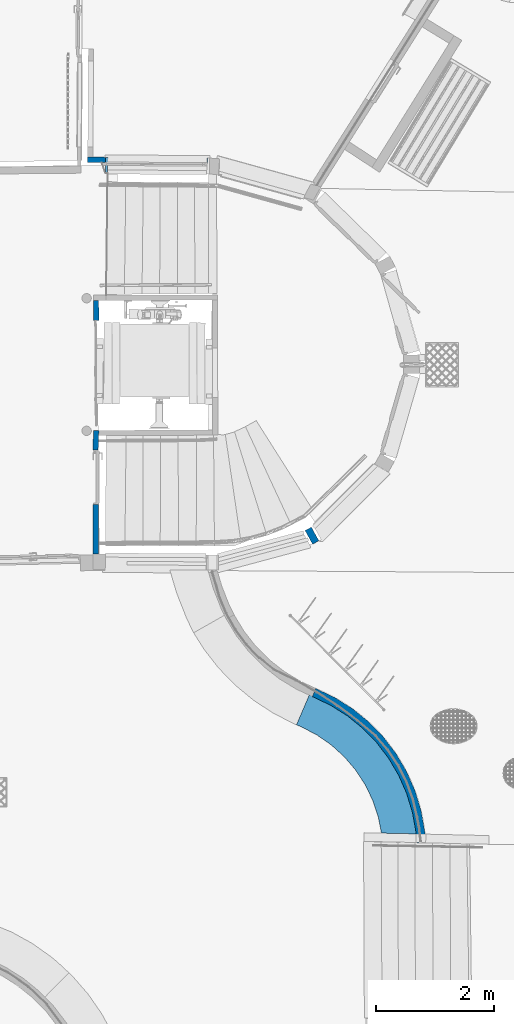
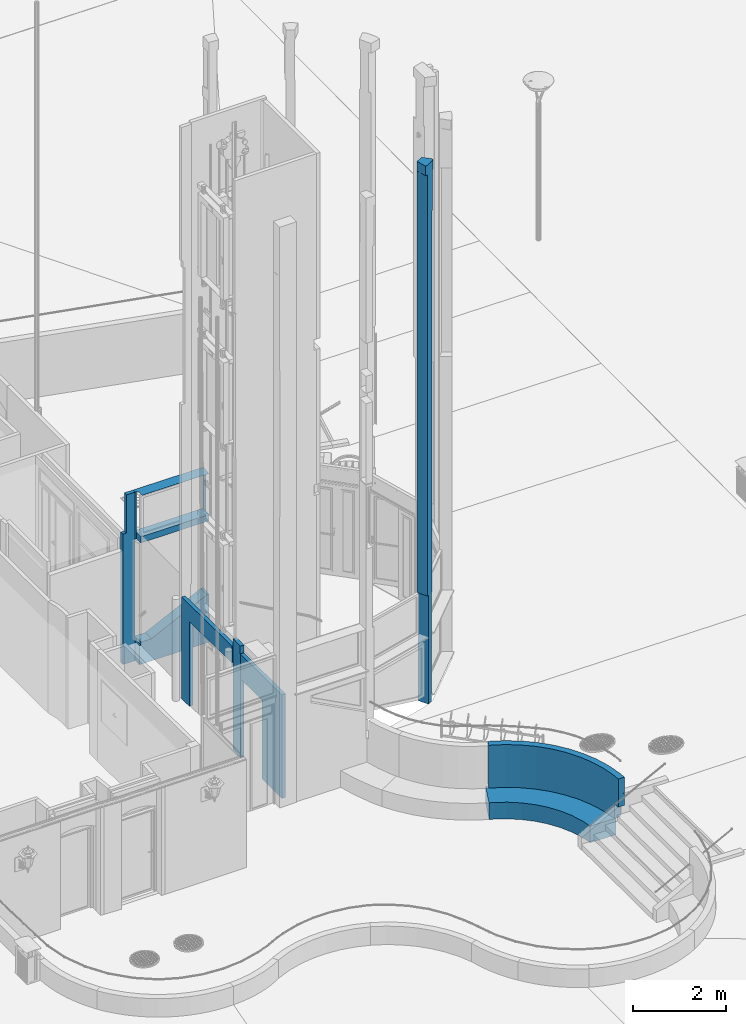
# One storey, part 21 of 133: 8 walls, 4 openings.
"""IFC2X3 building model written with IfcOpenShell, lengths in centimetres."""

import ifcopenshell
import ifcopenshell.guid

model = None  # the IFC model being written
_history = None  # IfcOwnerHistory: only IFC2X3 demands one
_inside = {}  # id of a spatial element -> (the spatial element, [elements in it])
_under = {}  # id of a project, library or spatial element -> (it, [spatial elements below it])
_declared = {}  # id of a project -> (the project, [libraries it declares])
_typed = {}  # id of a type object -> (the type object, [elements of that type])
_made_of = {}  # id of a material, layer set ... -> (it, [elements and type objects made of it])


def new_model(schema):
    """Start an empty IFC model of exactly this schema.

    Asked for "IFC4X3", IfcOpenShell would pick the latest addendum, in which some entities
    have other attributes; the version numbers below select the first issue.
    IFC2X3 requires an IfcOwnerHistory on every rooted entity: one is made here for all.
    """
    global model, _history
    if schema == "IFC4X3":
        model = ifcopenshell.file(schema_version=(4, 3, 0, 0))
    else:
        model = ifcopenshell.file(schema=schema)
    _inside.clear()
    _under.clear()
    _declared.clear()
    _typed.clear()
    _made_of.clear()
    _history = None
    if model.schema == "IFC2X3":
        org = make("IfcOrganization", Name="unknown")
        user = make(
            "IfcPersonAndOrganization",
            ThePerson=make("IfcPerson", FamilyName="unknown"),
            TheOrganization=org,
        )
        app = make(
            "IfcApplication",
            ApplicationDeveloper=org,
            Version="unknown",
            ApplicationFullName="unknown",
            ApplicationIdentifier="unknown",
        )
        _history = make(
            "IfcOwnerHistory",
            OwningUser=user,
            OwningApplication=app,
            ChangeAction="ADDED",
            CreationDate=0,
        )
    return model


def make(cls, **values):
    """One entity of the class cls with the attributes given. An attribute that is None is left unset."""
    return model.create_entity(
        cls, **{name: value for name, value in values.items() if value is not None}
    )


def entity(cls, *values):
    """Any entity or typed value of the class cls, its attributes in the order of the schema. None: left unset."""
    e = model.create_entity(cls)
    for i, value in enumerate(values):
        if value is not None:
            e[i] = value
    return e


def rooted(cls, **values):
    """An entity with a GlobalId (a new one), such as an element, a storey or a relation."""
    return make(cls, GlobalId=ifcopenshell.guid.new(), OwnerHistory=_history, **values)


def si_unit(unit_type, name, prefix=None):
    """IfcSIUnit, for example si_unit("LENGTHUNIT", "METRE", prefix="MILLI")."""
    return make("IfcSIUnit", UnitType=unit_type, Prefix=prefix, Name=name)


def converted_unit(unit_type, name, factor, base, dimensions=None, offset=None):
    """IfcConversionBasedUnit, such as the inch: factor (a typed value) times the base unit."""
    return make(
        "IfcConversionBasedUnit"
        if offset is None
        else "IfcConversionBasedUnitWithOffset",
        ConversionOffset=offset,
        Dimensions=None
        if dimensions is None
        else entity("IfcDimensionalExponents", *dimensions),
        UnitType=unit_type,
        Name=name,
        ConversionFactor=make(
            "IfcMeasureWithUnit", ValueComponent=factor, UnitComponent=base
        ),
    )


def assignment(units):
    """IfcUnitAssignment: the units of a project."""
    return None if units is None else make("IfcUnitAssignment", Units=units)


def point(xyz):
    """IfcCartesianPoint."""
    return None if xyz is None else make("IfcCartesianPoint", Coordinates=xyz)


def direction(xyz):
    """IfcDirection."""
    return None if xyz is None else make("IfcDirection", DirectionRatios=xyz)


def frame(location, z_axis=None, x_axis=None):
    """IfcAxis2Placement3D, a coordinate frame: its origin and axes. An axis left out is left unset."""
    return make(
        "IfcAxis2Placement3D",
        Location=point(location),
        Axis=direction(z_axis),
        RefDirection=direction(x_axis),
    )


def frame_2d(location, x_axis=None):
    """IfcAxis2Placement2D, a coordinate frame in the plane: its origin and x axis."""
    return make(
        "IfcAxis2Placement2D", Location=point(location), RefDirection=direction(x_axis)
    )


def origin():
    """The frame at (0, 0, 0) with its axes left unset."""
    return frame((0.0, 0.0, 0.0))


def origin_with_axes():
    """The frame at (0, 0, 0) with the z axis (0, 0, 1) and the x axis (1, 0, 0) written out."""
    return frame((0.0, 0.0, 0.0), z_axis=(0.0, 0.0, 1.0), x_axis=(1.0, 0.0, 0.0))


def origin_2d_with_axis():
    """The frame at (0, 0) in the plane with the x axis (1, 0) written out."""
    return frame_2d((0.0, 0.0), x_axis=(1.0, 0.0))


def place(relative_to, where):
    """IfcLocalPlacement: puts the frame where relative to a parent placement (None: the world)."""
    return make(
        "IfcLocalPlacement", PlacementRelTo=relative_to, RelativePlacement=where
    )


def context(
    kind, dimensions, precision=None, world=None, true_north=None, identifier=None
):
    """IfcGeometricRepresentationContext, for example the 3D "Model" context."""
    return make(
        "IfcGeometricRepresentationContext",
        ContextIdentifier=identifier,
        ContextType=kind,
        CoordinateSpaceDimension=dimensions,
        Precision=precision,
        WorldCoordinateSystem=world,
        TrueNorth=true_north,
    )


def subcontext(parent, identifier, kind, view, scale=None):
    """IfcGeometricRepresentationSubContext, for example "Body" below "Model"."""
    return make(
        "IfcGeometricRepresentationSubContext",
        ContextIdentifier=identifier,
        ContextType=kind,
        ParentContext=parent,
        TargetScale=scale,
        TargetView=view,
    )


def project(units=None, contexts=None):
    """IfcProject with its units and contexts."""
    return rooted(
        "IfcProject",
        Name="project",
        RepresentationContexts=contexts,
        UnitsInContext=assignment(units),
    )


def spatial(cls, under=None, at=None, **own):
    """A site, building, storey or space (cls), placed at a placement, below another one or the project."""
    s = rooted(cls, ObjectPlacement=at, **own)
    if under is not None:
        _under.setdefault(under.id(), (under, []))[1].append(s)
    return s


def polyline(points):
    """IfcPolyline through the points."""
    return make("IfcPolyline", Points=[point(p) for p in points])


def profile(cls, at=None, kind="AREA", **sizes):
    """A parametric profile (cls). Its sizes go by their IFC names, for example OverallWidth=200.0."""
    return make(cls, ProfileType=kind, Position=at, **sizes)


def rectangle(**sizes):
    """IfcRectangleProfileDef."""
    return profile("IfcRectangleProfileDef", **sizes)


def outline(outer, holes=None, kind="AREA"):
    """IfcArbitraryClosedProfileDef: a profile drawn as a closed curve; with holes, ...WithVoids."""
    if holes is None:
        return make("IfcArbitraryClosedProfileDef", ProfileType=kind, OuterCurve=outer)
    return make(
        "IfcArbitraryProfileDefWithVoids",
        ProfileType=kind,
        OuterCurve=outer,
        InnerCurves=holes,
    )


def extrude(swept, where, along, depth):
    """IfcExtrudedAreaSolid: the profile swept, set in the frame where, extruded along a direction by depth."""
    return make(
        "IfcExtrudedAreaSolid",
        SweptArea=swept,
        Position=where,
        ExtrudedDirection=direction(along),
        Depth=depth,
    )


def clip(a, b, op="DIFFERENCE"):
    """IfcBooleanClippingResult: the solid a cut by the half space b."""
    return make(
        "IfcBooleanClippingResult", Operator=op, FirstOperand=a, SecondOperand=b
    )


def bounded_halfspace(plane, agree, where, boundary):
    """IfcPolygonalBoundedHalfSpace: a half space limited to a polygon's prism."""
    return make(
        "IfcPolygonalBoundedHalfSpace",
        BaseSurface=make("IfcPlane", Position=plane),
        AgreementFlag=agree,
        Position=where,
        PolygonalBoundary=boundary,
    )


def shape(context_of_items, identifier, shape_type, items):
    """IfcShapeRepresentation: the items that make up one representation, for example the "Body"."""
    return make(
        "IfcShapeRepresentation",
        ContextOfItems=context_of_items,
        RepresentationIdentifier=identifier,
        RepresentationType=shape_type,
        Items=items,
    )


def material(Name=None, Category=None):
    """IfcMaterial."""
    return make("IfcMaterial", Name=Name, Category=Category)


def layer(
    of_material, thickness, ventilated=None, Name=None, Category=None, Priority=None
):
    """IfcMaterialLayer: one layer of a wall or slab, of a material (None: an air gap)."""
    return make(
        "IfcMaterialLayer",
        Material=of_material,
        LayerThickness=thickness,
        IsVentilated=ventilated,
        Name=Name,
        Category=Category,
        Priority=Priority,
    )


def layer_set(layers, Name=None):
    """IfcMaterialLayerSet."""
    return make("IfcMaterialLayerSet", MaterialLayers=layers, LayerSetName=Name)


def layer_usage(for_layer_set, set_direction, sense, offset, extent=None):
    """IfcMaterialLayerSetUsage: how a layer set lies in its element."""
    return make(
        "IfcMaterialLayerSetUsage",
        ForLayerSet=for_layer_set,
        LayerSetDirection=set_direction,
        DirectionSense=sense,
        OffsetFromReferenceLine=offset,
        ReferenceExtent=extent,
    )


def made_of(thing, what):
    """Note that an element or type object is made of a material, layer set ...; save() writes the relation."""
    if what is not None:
        _made_of.setdefault(what.id(), (what, []))[1].append(thing)
    return thing


def type_object(cls, material=None, **own):
    """A type object (cls), such as IfcWallType, which elements share."""
    return made_of(rooted(cls, **own), material)


def element(
    cls,
    number,
    at=None,
    inside=None,
    cuts=None,
    type_object=None,
    material=None,
    context=None,
    identifier="Body",
    shape_type=None,
    held_by="IfcProductDefinitionShape",
    body=None,
    shapes=None,
    **own,
):
    """One element of the class cls, such as IfcWall. Its Tag is "e" and its number.

    at: its placement. inside: the storey or other place that contains it. cuts: it is an
    opening in that element (IfcRelVoidsElement). A single representation is given by context,
    identifier, shape_type and body (its items); several are given by shapes. held_by: the class
    of the entity that holds the representations. save() writes the other relations.
    """
    e = rooted(cls, Tag="e%d" % number, ObjectPlacement=at, **own)
    if body is not None:
        shapes = [shape(context, identifier, shape_type, body)]
    if shapes is not None:
        e.Representation = make(held_by, Representations=shapes)
    if inside is not None:
        _inside.setdefault(inside.id(), (inside, []))[1].append(e)
    if cuts is not None:
        rooted(
            "IfcRelVoidsElement", RelatingBuildingElement=cuts, RelatedOpeningElement=e
        )
    if type_object is not None:
        _typed.setdefault(type_object.id(), (type_object, []))[1].append(e)
    return made_of(e, material)


def aggregate(whole, parts):
    """IfcRelAggregates: a whole, such as a stair, and the parts it consists of."""
    return rooted("IfcRelAggregates", RelatingObject=whole, RelatedObjects=parts)


def save(model, path):
    """Write the relations noted so far, then the file.

    IfcRelAggregates (storeys below a building ...), IfcRelContainedInSpatialStructure (elements
    in a storey), IfcRelDefinesByType, IfcRelAssociatesMaterial and IfcRelDeclares: one each for
    every whole, place, type object, material and project.
    """
    for whole, parts in _under.values():
        aggregate(whole, parts)
    for where, things in _inside.values():
        rooted(
            "IfcRelContainedInSpatialStructure",
            RelatedElements=things,
            RelatingStructure=where,
        )
    for kind, things in _typed.values():
        rooted("IfcRelDefinesByType", RelatedObjects=things, RelatingType=kind)
    for what, things in _made_of.values():
        rooted("IfcRelAssociatesMaterial", RelatedObjects=things, RelatingMaterial=what)
    for by, libraries in _declared.values():
        rooted("IfcRelDeclares", RelatingContext=by, RelatedDefinitions=libraries)
    model.write(path)


model = new_model("IFC2X3")

# Units and contexts
model_context = context("Model", 3, precision=0.0001, world=origin(), true_north=direction((0.225632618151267, 0.974212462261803, 0.0)))
body_context = subcontext(model_context, "Body", "Model", "MODEL_VIEW")
footprint_context = subcontext(model_context, "FootPrint", "Model", "MODEL_VIEW")
profile_context = subcontext(model_context, "Profile", "Model", "MODEL_VIEW")
ifc_project = project(units=[si_unit("LENGTHUNIT", "METRE", prefix="CENTI"), si_unit("AREAUNIT", "SQUARE_METRE", prefix="CENTI"), si_unit("VOLUMEUNIT", "CUBIC_METRE", prefix="CENTI"), converted_unit("PLANEANGLEUNIT", "DEGREE", entity("IfcRatioMeasure", 0.0174532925), si_unit("PLANEANGLEUNIT", "RADIAN"), dimensions=[0, 0, 0, 0, 0, 0, 0])], contexts=[model_context])

# Site, building, storey
site_placement = place(None, origin_with_axes())
site = spatial("IfcSite", under=ifc_project, at=site_placement, Name="Default Site", CompositionType="ELEMENT")
building_placement = place(site_placement, origin_with_axes())
building = spatial("IfcBuilding", under=site, at=building_placement, Name="Default Building", CompositionType="ELEMENT")
storey_placement = place(building_placement, frame((0.0, 0.0, -291.400371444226), z_axis=(0.0, 0.0, 1.0), x_axis=(1.0, 0.0, 0.0)))
storey = spatial("IfcBuildingStorey", under=building, at=storey_placement, Name="Rez-de-Jardin", CompositionType="ELEMENT", Elevation=-291.400371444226)

# Wall, opening
ifc_material = material(Name="<aucun>")
ifc_layer_1 = layer(ifc_material, 9.0)
ifc_layer_set_1 = layer_set([ifc_layer_1], Name="default")
ifc_layer_usage_1 = layer_usage(ifc_layer_set_1, "AXIS2", "POSITIVE", -4.5)
wall_type_1 = type_object("IfcWallType", Name="default 90", PredefinedType="NOTDEFINED", material=ifc_layer_set_1)
wall_1_placement = place(storey_placement, frame((1103.41951321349, -652.396751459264, 7.46069872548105e-12), z_axis=(0.0, 0.0, 1.0), x_axis=(-0.00922781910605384, 0.999957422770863, 0.0)))
wall_1 = element("IfcWallStandardCase", 1, at=wall_1_placement, inside=storey, type_object=wall_type_1, material=ifc_layer_usage_1, Name="Enveloppe 568527", context=body_context, shape_type="SweptSolid", body=[
    extrude(outline(polyline([(212.770919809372, 4.50000000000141), (1.77635683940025e-13, 4.49999999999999), (8.88178419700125e-14, -4.50000000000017), (212.709173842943, -4.49999999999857), (212.770919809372, 4.50000000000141)])), frame((0.0, 0.0, -8.88178419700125e-14), z_axis=(0.0, 0.0, 1.0), x_axis=(1.0, 0.0, 0.0)), (0.0, 0.0, 1.0), 266.400371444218),
])
opening_1_placement = place(wall_1_placement, frame((1.13686837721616e-13, 0.0, 4.48530101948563e-14), z_axis=(0.0, 0.0, 1.0), x_axis=(-1.0, -6.1929628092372e-15, 0.0)))
cartesian_point_1 = entity("IfcCartesianPoint", [0.0, 0.0, 221.56888688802])
cartesian_point_2 = entity("IfcCartesianPoint", [-178.993379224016, -4.49999999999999])
element("IfcOpeningElement", 2, at=opening_1_placement, cuts=wall_1, Name="Baie 577816", ObjectType="Opening", shapes=[
    shape(body_context, "Body", "SweptSolid", [extrude(outline(polyline([(8.88178419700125e-14, 221.56888688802), (8.88178419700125e-14, 8.88178419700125e-14), (178.993379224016, 8.88178419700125e-14), (178.993379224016, 221.56888688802), (8.88178419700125e-14, 221.56888688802)])), frame((0.0, -14.5, 0.0), z_axis=(0.0, 1.0, 0.0), x_axis=(-1.0, 0.0, 0.0)), (0.0, 0.0, 1.0), 29.0)]),
    shape(profile_context, "Profile", "GeometricCurveSet", [entity("IfcGeometricCurveSet", [entity("IfcPolyline", [cartesian_point_1, entity("IfcCartesianPoint", [0.0, 0.0, 8.88178419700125e-14]), entity("IfcCartesianPoint", [-178.993379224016, -1.77635683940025e-13, 8.88178419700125e-14]), entity("IfcCartesianPoint", [-178.993379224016, -1.77635683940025e-13, 221.56888688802]), cartesian_point_1])])]),
    shape(footprint_context, "FootPrint", "GeometricCurveSet", [entity("IfcGeometricCurveSet", [entity("IfcPolyline", [cartesian_point_2, entity("IfcCartesianPoint", [-8.88178419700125e-14, -4.49999999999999]), entity("IfcCartesianPoint", [0.0, 4.49999999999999]), entity("IfcCartesianPoint", [-178.993379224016, 4.49999999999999]), cartesian_point_2])])]),
])

# Wall
ifc_layer_usage_2 = layer_usage(ifc_layer_set_1, "AXIS2", "POSITIVE", -4.5)
wall_2_placement = place(storey_placement, frame((1100.57543640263, -693.454091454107, 7.46069872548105e-12), z_axis=(0.0, 0.0, 1.0), x_axis=(0.0359151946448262, 0.999354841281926, 0.0)))
element("IfcWallStandardCase", 3, at=wall_2_placement, inside=storey, type_object=wall_type_1, material=ifc_layer_usage_2, Name="Enveloppe 575468", context=body_context, shape_type="Clipping", body=[
    clip(extrude(outline(polyline([(-0.446057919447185, 4.49960430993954), (-0.0999351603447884, -4.49351094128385), (8.88178419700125e-14, -4.48991943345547), (0.000361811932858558, -4.49998699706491), (32.996652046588, -4.50000000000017), (32.6287461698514, 4.49999999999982), (-0.446057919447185, 4.49960430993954)])), origin_with_axes(), (0.0, 0.0, 1.0), 291.413221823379), bounded_halfspace(frame((-0.446056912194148, 4.49957628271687, 271.400371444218), z_axis=(0.0, 0.0, -1.0), x_axis=(0.0384589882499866, -0.999260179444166, 0.0)), True, frame((-0.446056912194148, 4.49957628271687, 271.400371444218), z_axis=(0.0, 0.0, 1.0), x_axis=(1.0, 0.0, 0.0)), polyline([(0.0, 0.0), (0.346130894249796, -8.9933416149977), (0.446056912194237, -8.98949571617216), (0.446056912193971, 0.000423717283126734), (0.0, 0.0)]))),
])

# Wall, opening
ifc_layer_usage_3 = layer_usage(ifc_layer_set_1, "AXIS2", "POSITIVE", -4.5)
wall_3_placement = place(storey_placement, frame((1101.02122855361, -873.844420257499, 7.46069872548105e-12), z_axis=(0.0, 0.0, 1.0), x_axis=(-0.00254555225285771, 0.999996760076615, 0.0)))
wall_3 = element("IfcWallStandardCase", 4, at=wall_3_placement, inside=storey, type_object=wall_type_1, material=ifc_layer_usage_3, Name="Enveloppe 575817", context=body_context, shape_type="SweptSolid", body=[
    extrude(outline(polyline([(180.118201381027, 4.5000000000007), (2.89395461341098, 4.49999999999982), (2.81817617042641, -4.49999999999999), (180.118201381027, -4.4999999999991), (180.118201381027, 4.5000000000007)])), frame((0.0, 0.0, -2.68673971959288e-11), z_axis=(0.0, 0.0, 1.0), x_axis=(1.0, 0.0, 0.0)), (0.0, 0.0, 1.0), 271.400371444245),
])
opening_2_placement = place(wall_3_placement, frame((87.0194812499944, 4.54747350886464e-13, 4.44089209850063e-14), z_axis=(0.0, 0.0, 1.0), x_axis=(-1.0, -7.04384467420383e-15, 0.0)))
cartesian_point_3 = entity("IfcCartesianPoint", [0.0, -1.77635683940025e-13, 206.0])
cartesian_point_4 = entity("IfcCartesianPoint", [-93.0000000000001, -4.50000000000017])
element("IfcOpeningElement", 5, at=opening_2_placement, cuts=wall_3, Name="4294966384_11", ObjectType="Opening", shapes=[
    shape(body_context, "Body", "SweptSolid", [extrude(outline(polyline([(8.88178419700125e-14, 206.0), (8.88178419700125e-14, 0.0), (93.0000000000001, 0.0), (93.0000000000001, 206.0), (8.88178419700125e-14, 206.0)])), frame((0.0, -14.5, 0.0), z_axis=(0.0, 1.0, 0.0), x_axis=(-1.0, 0.0, 0.0)), (0.0, 0.0, 1.0), 29.0)]),
    shape(profile_context, "Profile", "GeometricCurveSet", [entity("IfcGeometricCurveSet", [entity("IfcPolyline", [cartesian_point_3, entity("IfcCartesianPoint", [0.0, -1.77635683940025e-13, 0.0]), entity("IfcCartesianPoint", [-93.0, -1.77635683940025e-13, 0.0]), entity("IfcCartesianPoint", [-93.0, -1.77635683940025e-13, 206.0]), cartesian_point_3])])]),
    shape(footprint_context, "FootPrint", "GeometricCurveSet", [entity("IfcGeometricCurveSet", [entity("IfcPolyline", [cartesian_point_4, entity("IfcCartesianPoint", [-8.88178419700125e-14, -4.50000000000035]), entity("IfcCartesianPoint", [0.0, 4.49999999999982]), entity("IfcCartesianPoint", [-93.0, 4.49999999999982]), cartesian_point_4])])]),
])

# Walls
ifc_layer_usage_4 = layer_usage(ifc_layer_set_1, "AXIS2", "POSITIVE", -4.5)
wall_4_placement = place(storey_placement, frame((1117.70224303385, -200.815710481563, -50.0), z_axis=(0.0, 0.0, 1.0), x_axis=(-0.999978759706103, 0.00651767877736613, 0.0)))
element("IfcWallStandardCase", 6, at=wall_4_placement, inside=storey, type_object=wall_type_1, material=ifc_layer_usage_4, Name="Enveloppe 135077", context=body_context, shape_type="Clipping", body=[
    clip(extrude(rectangle(XDim=8.99999999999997, YDim=30.5338122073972, at=origin_2d_with_axis()), frame((15.2669061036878, -1.76596671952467e-05, 0.0), z_axis=(0.0, 0.0, 1.0), x_axis=(1.97203364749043e-14, -1.0, 0.0)), (0.0, 0.0, 1.0), 441.400371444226), bounded_halfspace(frame((30.5392310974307, -4.49457761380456, 341.413221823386), z_axis=(0.0, 0.0, -1.0), x_axis=(-0.000602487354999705, 0.999999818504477, 0.0)), True, frame((30.5392310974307, -4.49457761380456, 341.413221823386), z_axis=(0.0, 0.0, 1.0), x_axis=(1.0, 0.0, 0.0)), polyline([(-8.99999836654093, -0.00542238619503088), (0.0, 2.22044604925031e-14), (-0.0054191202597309, 8.99457761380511), (-9.00542075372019, 8.99457761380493), (-8.99999836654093, -0.00542238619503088)]))),
])
ifc_layer_2 = layer(ifc_material, 26.5)
ifc_layer_set_2 = layer_set([ifc_layer_2], Name="default")
ifc_layer_usage_5 = layer_usage(ifc_layer_set_2, "AXIS2", "POSITIVE", -13.25)
wall_type_2 = type_object("IfcWallType", Name="default 265", PredefinedType="NOTDEFINED", material=ifc_layer_set_2)
wall_5_placement = place(storey_placement, frame((1458.92096183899, -844.818488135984, 106.0), z_axis=(0.0, 0.0, 1.0), x_axis=(0.876349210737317, 0.48167630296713, 0.0)))
element("IfcWallStandardCase", 7, at=wall_5_placement, inside=storey, type_object=wall_type_2, material=ifc_layer_usage_5, Name="Enveloppe 488241", context=body_context, shape_type="Clipping", body=[
    clip(clip(clip(clip(clip(clip(clip(clip(extrude(outline(polyline([(-1.77635683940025e-13, 13.25), (-1.77635683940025e-13, 8.74538222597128), (-5.09034981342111, -12.0010292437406), (-3.5527136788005e-13, -13.2499999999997), (21.5897827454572, -13.25), (26.8745858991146, -11.703432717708), (21.2943811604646, 7.36478625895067), (21.2943811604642, 13.2499999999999), (-1.77635683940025e-13, 13.25)])), frame((0.0, 0.0, -8.88178419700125e-14), z_axis=(0.0, 0.0, 1.0), x_axis=(1.0, 0.0, 0.0)), (0.0, 0.0, 1.0), 1414.2021005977), bounded_halfspace(frame((19.5721071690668, 13.2499999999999, 285.400371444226), z_axis=(0.0, 0.0, 1.0), x_axis=(-5.88418203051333e-15, -1.0, 0.0)), True, frame((19.5721071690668, 13.2499999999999, 285.400371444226), z_axis=(0.0, 0.0, 1.0), x_axis=(1.0, 0.0, 0.0)), polyline([(-2.52858940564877, -26.4999999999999), (-2.52858940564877, -1.77635683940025e-13), (0.0, 0.0), (0.0, -26.4999999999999), (-2.52858940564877, -26.4999999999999)]))), bounded_halfspace(frame((1.10525525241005, 13.25, 285.400371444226), z_axis=(0.0, 0.0, 1.0), x_axis=(1.0, -1.92623694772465e-14, 0.0)), True, frame((1.10525525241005, 13.25, 285.400371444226), z_axis=(0.0, 0.0, 1.0), x_axis=(1.0, 0.0, 0.0)), polyline([(1.77635683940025e-13, -26.5000000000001), (1.77635683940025e-13, 0.0), (3.76173881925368, 0.0), (3.76173881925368, -26.5000000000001), (1.77635683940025e-13, -26.5000000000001)]))), bounded_halfspace(frame((21.2943811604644, 13.2499999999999, 1284.31074563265), z_axis=(0.0, 0.0, 1.0), x_axis=(0.0, -1.0, 0.0)), True, frame((21.2943811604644, 13.2499999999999, 1284.31074563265), z_axis=(0.0, 0.0, 1.0), x_axis=(1.0, 0.0, 0.0)), polyline([(-1.72227399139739, -26.4999999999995), (-1.72227399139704, -1.77635683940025e-13), (0.0, 0.0), (0.0, -26.4999999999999), (-1.72227399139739, -26.4999999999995)]))), bounded_halfspace(frame((0.0, 13.25, 1284.31074563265), z_axis=(0.0, 0.0, 1.0), x_axis=(1.0, 6.9111383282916e-14, 0.0)), True, frame((0.0, 13.25, 1284.31074563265), z_axis=(0.0, 0.0, 1.0), x_axis=(1.0, 0.0, 0.0)), polyline([(1.77635683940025e-13, -26.4999999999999), (0.0, 0.0), (1.1052552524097, 0.0), (1.10525525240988, -26.4999999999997), (1.77635683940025e-13, -26.4999999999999)]))), bounded_halfspace(frame((-5.09034981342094, -12.0010292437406, 1389.01316231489), z_axis=(0.0, 0.0, 1.0), x_axis=(0.23829250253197, 0.971193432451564, 0.0)), True, frame((-5.09034981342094, -12.0010292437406, 1389.01316231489), z_axis=(0.0, 0.0, 1.0), x_axis=(1.0, 0.0, 0.0)), polyline([(0.0, 0.0), (5.09034981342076, 20.74641146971), (5.09034981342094, -1.24897075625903), (0.0, 0.0)]))), bounded_halfspace(frame((21.5897827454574, -13.25, 1389.01316231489), z_axis=(0.0, 0.0, 1.0), x_axis=(-1.0, 2.63622457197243e-13, 0.0)), True, frame((21.5897827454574, -13.25, 1389.01316231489), z_axis=(0.0, 0.0, 1.0), x_axis=(1.0, 0.0, 0.0)), polyline([(-0.295401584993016, 0.0), (-0.295401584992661, 20.61478625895), (5.28480315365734, 1.54656728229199), (0.0, 0.0), (-0.295401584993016, 0.0)]))), bounded_halfspace(frame((19.5721071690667, 13.25, 1389.01316231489), z_axis=(0.0, 0.0, -1.0), x_axis=(0.280864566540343, -0.959747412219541, 0.0)), True, frame((19.5721071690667, 13.25, 1389.01316231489), z_axis=(0.0, 0.0, 1.0), x_axis=(1.0, 0.0, 0.0)), polyline([(1.77635683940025e-13, 0.0), (1.7222739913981, -5.88521374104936), (1.72227399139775, -1.77635683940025e-13), (1.77635683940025e-13, 0.0)]))), bounded_halfspace(frame((0.0, 8.74538222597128, 1389.01316231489), z_axis=(0.0, 0.0, -1.0), x_axis=(0.238292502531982, 0.971193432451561, 0.0)), True, frame((0.0, 8.74538222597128, 1389.01316231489), z_axis=(0.0, 0.0, 1.0), x_axis=(1.0, 0.0, 0.0)), polyline([(0.0, 0.0), (1.10525525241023, 4.50461777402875), (0.0, 4.50461777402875), (0.0, 0.0)]))),
])

# Wall, openings
ifc_layer_3 = layer(ifc_material, 27.0)
ifc_layer_set_3 = layer_set([ifc_layer_3], Name="default")
ifc_layer_usage_6 = layer_usage(ifc_layer_set_3, "AXIS2", "POSITIVE", -13.5)
wall_type_3 = type_object("IfcWallType", Name="default 270", PredefinedType="NOTDEFINED", material=ifc_layer_set_3)
wall_6_placement = place(storey_placement, frame((1291.19052133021, -210.946666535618, -50.0), z_axis=(0.0, 0.0, 1.0), x_axis=(-0.999978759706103, 0.00651767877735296, 0.0)))
wall_6 = element("IfcWallStandardCase", 8, at=wall_6_placement, inside=storey, type_object=wall_type_3, material=ifc_layer_usage_6, Name="Enveloppe 777845", context=body_context, shape_type="Clipping", body=[
    clip(clip(clip(clip(extrude(rectangle(XDim=27.0, YDim=173.550623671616, at=origin_2d_with_axis()), frame((86.7753118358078, 3.99680288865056e-13, 1.33226762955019e-13), z_axis=(0.0, 0.0, 1.0), x_axis=(0.0, -1.0, 0.0)), (0.0, 0.0, 1.0), 441.400371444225), bounded_halfspace(frame((169.907845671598, 13.5000000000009, 49.9999999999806), z_axis=(0.0, 0.0, -1.0), x_axis=(-0.00525194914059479, -0.999986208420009, 0.0)), True, frame((169.907845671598, 13.5000000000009, 49.9999999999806), z_axis=(0.0, 0.0, 1.0), x_axis=(1.0, 0.0, 0.0)), polyline([(-0.0945363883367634, -18.0000000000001), (3.64277800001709, -18.0), (3.64277800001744, 0.0), (0.0, 4.44089209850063e-14), (-0.0945363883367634, -18.0000000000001)]))), bounded_halfspace(frame((0.966032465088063, 13.5, 49.9999999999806), z_axis=(0.0, 0.0, -1.0), x_axis=(0.997443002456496, -0.0714664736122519, 0.0)), True, frame((0.966032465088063, 13.5, 49.9999999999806), z_axis=(0.0, 0.0, 1.0), x_axis=(1.0, 0.0, 0.0)), polyline([(0.0, 0.0), (0.963562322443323, -0.0690389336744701), (0.968508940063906, 0.0), (0.0, 0.0)]))), bounded_halfspace(frame((1.77635683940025e-13, -13.5, 49.9999999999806), z_axis=(0.0, 0.0, -1.0), x_axis=(0.0714664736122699, 0.997443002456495, 0.0)), True, frame((1.77635683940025e-13, -13.5, 49.9999999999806), z_axis=(0.0, 0.0, 1.0), x_axis=(1.0, 0.0, 0.0)), polyline([(1.77635683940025e-13, 2.22044604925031e-14), (1.92959478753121, 26.9309610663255), (0.966032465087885, 27.0), (-1.77635683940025e-13, 27.0), (1.77635683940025e-13, 2.22044604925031e-14)]))), bounded_halfspace(frame((169.907845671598, 13.5000000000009, 341.413221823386), z_axis=(0.0, 0.0, -1.0), x_axis=(-1.0, 1.53800583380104e-14, 0.0)), True, frame((169.907845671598, 13.5000000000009, 341.413221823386), z_axis=(0.0, 0.0, 1.0), x_axis=(1.0, 0.0, 0.0)), polyline([(-3.48228520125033, -18.0000000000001), (-0.0945363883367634, -18.0000000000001), (0.0, 4.44089209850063e-14), (-3.33606360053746, 0.0), (-3.48228520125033, -18.0000000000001)]))),
])
opening_3_placement = place(wall_6_placement, frame((143.860171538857, 7.38964445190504e-13, 58.0000000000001), z_axis=(0.0, 0.0, 1.0), x_axis=(-1.0, -5.08187242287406e-15, 0.0)))
cartesian_point_5 = entity("IfcCartesianPoint", [147.30105631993, 4.44089209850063e-14, 259.500001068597])
cartesian_point_6 = entity("IfcCartesianPoint", [-36.4652544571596, -13.5])
element("IfcOpeningElement", 9, at=opening_3_placement, cuts=wall_6, Name="4294966503_17", ObjectType="Opening", shapes=[
    shape(body_context, "Body", "SweptSolid", [extrude(outline(polyline([(-147.30105631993, 259.500001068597), (-147.30105631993, 68.1000010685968), (-137.232650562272, 68.1000010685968), (1.77635683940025e-13, 0.0), (36.4652544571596, 0.0), (36.4652544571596, 259.500001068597), (-147.30105631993, 259.500001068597)])), frame((0.0, -23.5, 0.0), z_axis=(0.0, 1.0, 0.0), x_axis=(-1.0, 0.0, 0.0)), (0.0, 0.0, 1.0), 47.0)]),
    shape(profile_context, "Profile", "GeometricCurveSet", [entity("IfcGeometricCurveSet", [entity("IfcPolyline", [cartesian_point_5, entity("IfcCartesianPoint", [147.30105631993, 4.44089209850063e-14, 68.1000010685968]), entity("IfcCartesianPoint", [137.232650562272, 0.0, 68.1000010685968]), entity("IfcCartesianPoint", [0.0, 0.0, 0.0]), entity("IfcCartesianPoint", [-36.4652544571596, 0.0, 0.0]), entity("IfcCartesianPoint", [-36.4652544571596, 0.0, 259.500001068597]), cartesian_point_5])])]),
    shape(footprint_context, "FootPrint", "GeometricCurveSet", [entity("IfcGeometricCurveSet", [entity("IfcPolyline", [cartesian_point_6, entity("IfcCartesianPoint", [147.30105631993, -13.5]), entity("IfcCartesianPoint", [147.30105631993, 13.5]), entity("IfcCartesianPoint", [-36.4652544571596, 13.5]), cartesian_point_6])])]),
])
opening_4_placement = place(wall_6_placement, frame((0.964797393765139, 5.6843418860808e-14, 337.0), z_axis=(0.0, 0.0, 1.0), x_axis=(-1.0, -5.08187242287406e-15, 0.0)))
cartesian_point_7 = entity("IfcCartesianPoint", [-1.77635683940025e-13, 0.0, 104.0])
cartesian_point_8 = entity("IfcCartesianPoint", [-168.943048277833, -13.5])
element("IfcOpeningElement", 10, at=opening_4_placement, cuts=wall_6, Name="4294966499_11", ObjectType="Opening", shapes=[
    shape(body_context, "Body", "SweptSolid", [extrude(outline(polyline([(1.77635683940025e-13, 104.0), (1.77635683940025e-13, -2.99999999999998), (168.943048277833, -2.99999999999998), (168.943048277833, 104.0), (1.77635683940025e-13, 104.0)])), frame((0.0, -23.5, 0.0), z_axis=(0.0, 1.0, 0.0), x_axis=(-1.0, 0.0, 0.0)), (0.0, 0.0, 1.0), 47.0)]),
    shape(profile_context, "Profile", "GeometricCurveSet", [entity("IfcGeometricCurveSet", [entity("IfcPolyline", [cartesian_point_7, entity("IfcCartesianPoint", [-1.77635683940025e-13, 0.0, 6.93889390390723e-16]), entity("IfcCartesianPoint", [-168.943048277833, 4.44089209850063e-14, 6.93889390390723e-16]), entity("IfcCartesianPoint", [-168.943048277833, 4.44089209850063e-14, 104.0]), cartesian_point_7])])]),
    shape(footprint_context, "FootPrint", "GeometricCurveSet", [entity("IfcGeometricCurveSet", [entity("IfcPolyline", [cartesian_point_8, entity("IfcCartesianPoint", [-1.77635683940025e-13, -13.5]), entity("IfcCartesianPoint", [0.0, 13.5]), entity("IfcCartesianPoint", [-168.943048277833, 13.5]), cartesian_point_8])])]),
])

# Walls
ifc_layer_4 = layer(ifc_material, 15.0)
ifc_layer_set_4 = layer_set([ifc_layer_4], Name="default")
ifc_layer_usage_7 = layer_usage(ifc_layer_set_4, "AXIS2", "POSITIVE", -7.5)
wall_type_4 = type_object("IfcWallType", Name="default 150", PredefinedType="NOTDEFINED", material=ifc_layer_set_4)
wall_7_placement = place(storey_placement, frame((1654.31448260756, -1361.29421882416, 43.7), z_axis=(0.0, 0.0, 1.0), x_axis=(-0.0524519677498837, 0.998623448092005, 0.0)))
solid = clip(clip(clip(clip(clip(clip(clip(clip(extrude(outline(polyline([(257.602359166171, 171.916491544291), (257.22789404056, 171.11318228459), (241.18275777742, 141.53507523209), (221.75194427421, 114.0622832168), (199.208219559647, 89.080464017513), (173.868048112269, 66.9403076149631), (146.087150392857, 47.9526132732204), (116.255509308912, 32.3839265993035), (84.791895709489, 20.452797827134), (52.1379897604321, 12.3267138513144), (18.7521807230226, 8.11974707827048), (1.77635683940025e-13, 7.50000000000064), (0.0, 2.72448987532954), (-0.76686875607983, -7.45204228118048), (-0.200170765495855, -7.49474670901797), (0.0, -7.50000000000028), (19.7425789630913, -6.84752091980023), (54.8916627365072, -2.41836278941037), (89.2701878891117, 6.13690109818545), (122.395555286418, 18.698173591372), (153.80275738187, 35.0891219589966), (183.050905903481, 55.0796532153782), (209.729420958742, 78.3891441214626), (233.463794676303, 104.690380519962), (253.920848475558, 133.614150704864), (270.813410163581, 164.754428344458), (271.207652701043, 165.600164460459), (257.602359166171, 171.916491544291)])), frame((0.0, 0.0, 4.44089209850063e-14), z_axis=(0.0, 0.0, 1.0), x_axis=(1.0, 0.0, 0.0)), (0.0, 0.0, 1.0), 112.0), bounded_halfspace(frame((-0.766868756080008, -7.45204228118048, 38.2999999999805), z_axis=(0.0, 0.0, 1.0), x_axis=(0.07514353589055, 0.99717272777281, 0.0)), True, frame((-0.766868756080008, -7.45204228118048, 38.2999999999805), z_axis=(0.0, 0.0, 1.0), x_axis=(1.0, 0.0, 0.0)), polyline([(0.0, 3.5527136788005e-13), (0.673179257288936, 8.93325005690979), (0.766868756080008, 8.92618993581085), (0.766868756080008, 7.51495923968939), (0.199434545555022, -0.0150287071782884), (0.0, 3.5527136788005e-13)]))), bounded_halfspace(frame((-0.200170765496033, -7.49474670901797, 38.2999999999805), z_axis=(0.0, 0.0, 1.0), x_axis=(-0.99717272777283, 0.0751435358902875, 0.0)), True, frame((-0.200170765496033, -7.49474670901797, 38.2999999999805), z_axis=(0.0, 0.0, 1.0), x_axis=(1.0, 0.0, 0.0)), polyline([(-0.367263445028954, 0.0276757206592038), (0.200170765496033, 7.55766366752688), (0.200170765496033, -0.00525329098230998), (-0.367263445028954, 0.0276757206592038)]))), bounded_halfspace(frame((-0.0936894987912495, 1.48120777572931, 38.2999999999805), z_axis=(0.0, 0.0, 1.0), x_axis=(0.0751435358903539, 0.997172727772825, 0.0)), True, frame((-0.0936894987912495, 1.48120777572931, 38.2999999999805), z_axis=(0.0, 0.0, 1.0), x_axis=(1.0, 0.0, 0.0)), polyline([(1.77635683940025e-13, 0.0), (0.0936894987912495, 1.24328209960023), (0.0936894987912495, -0.00706012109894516), (1.77635683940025e-13, 0.0)]))), bounded_halfspace(frame((0.105745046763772, 1.46617906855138, 38.2999999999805), z_axis=(0.0, 0.0, 1.0), x_axis=(-0.0751435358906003, -0.997172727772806, 0.0)), True, frame((0.105745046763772, 1.46617906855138, 38.2999999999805), z_axis=(0.0, 0.0, 1.0), x_axis=(1.0, 0.0, 0.0)), polyline([(-0.105745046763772, -1.40326211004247), (-0.105745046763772, 0.00796858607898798), (3.5527136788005e-13, 0.0), (-0.105745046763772, -1.40326211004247)]))), bounded_halfspace(frame((14.1066118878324, -7.03378587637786, 38.2999999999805), z_axis=(0.0, 0.0, 1.0), x_axis=(-0.999454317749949, -0.0330312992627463, 0.0)), True, frame((14.1066118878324, -7.03378587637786, 38.2999999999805), z_axis=(0.0, 0.0, 1.0), x_axis=(1.0, 0.0, 0.0)), polyline([(-14.1066118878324, -0.466214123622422), (-14.1066118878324, 7.09670283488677), (-13.5447794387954, 14.5523540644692), (1.13317098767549, 15.0374505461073), (1.77635683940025e-13, 0.0), (-14.1066118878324, -0.466214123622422)]))), bounded_halfspace(frame((0.32351951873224, 4.35609849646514, 38.2999999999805), z_axis=(0.0, 0.0, 1.0), x_axis=(-0.0751435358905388, -0.997172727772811, 0.0)), True, frame((0.32351951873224, 4.35609849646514, 38.2999999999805), z_axis=(0.0, 0.0, 1.0), x_axis=(1.0, 0.0, 0.0)), polyline([(-0.32351951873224, -2.88195084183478), (-0.32351951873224, -1.63160862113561), (0.0372451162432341, 3.15582453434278), (0.238312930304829, 3.16246969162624), (-0.217774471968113, -2.88991942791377), (-0.32351951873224, -2.88195084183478)]))), bounded_halfspace(frame((-1.77635683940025e-13, 2.72448987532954, 70.7999999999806), z_axis=(0.0, 0.0, 1.0), x_axis=(3.26683124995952e-14, 1.0, 0.0)), True, frame((-1.77635683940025e-13, 2.72448987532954, 70.7999999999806), z_axis=(0.0, 0.0, 1.0), x_axis=(1.0, 0.0, 0.0)), polyline([(1.77635683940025e-13, 0.0), (3.5527136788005e-13, 4.77551012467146), (0.360764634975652, 4.78743315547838), (1.77635683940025e-13, 0.0)]))), bounded_halfspace(frame((257.597218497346, 171.905463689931, 111.0), z_axis=(0.0, 0.0, 1.0), x_axis=(0.422503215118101, 0.906361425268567, 0.0)), True, frame((257.597218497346, 171.905463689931, 111.0), z_axis=(0.0, 0.0, 1.0), x_axis=(1.0, 0.0, 0.0)), polyline([(1.77635683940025e-13, 1.77635683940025e-13), (0.0051406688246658, 0.0110278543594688), (6.59831588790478, -3.05679859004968), (1.77635683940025e-13, 1.77635683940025e-13)])))
element("IfcWallStandardCase", 11, at=wall_7_placement, inside=storey, type_object=wall_type_4, material=ifc_layer_usage_7, Name="Enveloppe courbe 244730", context=body_context, shape_type="Clipping", body=[
    clip(clip(clip(clip(solid, bounded_halfspace(frame((-0.567434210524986, -7.46707098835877, 70.7999999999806), z_axis=(0.0, 0.0, -1.0), x_axis=(0.0751435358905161, 0.997172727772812, 0.0)), True, frame((-0.567434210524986, -7.46707098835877, 70.7999999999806), z_axis=(0.0, 0.0, 1.0), x_axis=(1.0, 0.0, 0.0)), polyline([(-0.199434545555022, 0.0150287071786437), (0.0, 0.0), (0.567434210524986, 7.52998794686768), (0.567434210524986, 8.94121864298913), (0.473744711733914, 8.94827876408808), (-0.199434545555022, 0.0150287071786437)]))), bounded_halfspace(frame((-1.77635683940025e-13, -7.50000000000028, 70.7999999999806), z_axis=(0.0, 0.0, -1.0), x_axis=(1.07414077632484e-14, 1.0, 0.0)), True, frame((-1.77635683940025e-13, -7.50000000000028, 70.7999999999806), z_axis=(0.0, 0.0, 1.0), x_axis=(1.0, 0.0, 0.0)), polyline([(-0.567434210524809, 0.0329290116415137), (1.77635683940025e-13, 0.0), (1.77635683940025e-13, 7.56291695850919), (-0.567434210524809, 0.0329290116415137)]))), bounded_halfspace(frame((0.0, 1.47414765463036, 70.7999999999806), z_axis=(0.0, 0.0, -1.0), x_axis=(-7.12485626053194e-14, 1.0, 0.0)), True, frame((0.0, 1.47414765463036, 70.7999999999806), z_axis=(0.0, 0.0, 1.0), x_axis=(1.0, 0.0, 0.0)), polyline([(-0.0936894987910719, 0.00706012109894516), (0.0, 0.0), (0.0, 1.25034222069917), (-0.0936894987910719, 0.00706012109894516)]))), bounded_halfspace(frame((0.0, 1.47414765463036, 70.7999999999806), z_axis=(0.0, 0.0, -1.0), x_axis=(-4.71567229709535e-14, -1.0, 0.0)), True, frame((0.0, 1.47414765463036, 70.7999999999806), z_axis=(0.0, 0.0, 1.0), x_axis=(1.0, 0.0, 0.0)), polyline([(0.0, -1.41123069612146), (0.105745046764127, -0.00796858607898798), (0.0, 0.0), (0.0, -1.41123069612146)]))),
])
ifc_layer_5 = layer(ifc_material, 62.0)
ifc_layer_set_5 = layer_set([ifc_layer_5], Name="default")
ifc_layer_usage_8 = layer_usage(ifc_layer_set_5, "AXIS2", "POSITIVE", -31.0)
wall_type_5 = type_object("IfcWallType", Name="default 620", PredefinedType="NOTDEFINED", material=ifc_layer_set_5)
wall_8_placement = place(storey_placement, frame((1618.05030423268, -1346.00000897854, 0.0), z_axis=(0.0, 0.0, 1.0), x_axis=(-0.117633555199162, 0.99305707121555, 0.0)))
element("IfcWallStandardCase", 12, at=wall_8_placement, inside=storey, type_object=wall_type_5, material=ifc_layer_usage_8, Name="Enveloppe courbe 239638", context=body_context, shape_type="SweptSolid", body=[
    extrude(outline(polyline([(204.355295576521, 152.985003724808), (204.033655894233, 152.431847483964), (203.94351726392, 152.246306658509), (199.74928806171, 144.858527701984), (182.983117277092, 120.286292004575), (163.212368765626, 98.059804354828), (140.761677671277, 78.5440230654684), (115.999683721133, 62.0593967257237), (89.3329781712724, 48.8766024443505), (61.1994275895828, 39.2121013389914), (32.0609840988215, 33.224584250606), (4.54422725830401, 31.1725596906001), (-4.22285782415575, -30.7507598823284), (-1.77635683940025e-13, -30.9999999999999), (3.036035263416, -30.9843313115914), (40.6236270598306, -28.1812879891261), (77.5441800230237, -20.5946630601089), (113.191459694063, -8.34902869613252), (146.980138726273, 8.35454212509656), (178.355407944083, 29.2417772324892), (206.802086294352, 53.9697088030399), (231.85308010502, 82.1323048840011), (253.097052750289, 113.267136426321), (258.022661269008, 121.943178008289), (204.355295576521, 152.985003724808)])), frame((0.0, 0.0, -1.93622895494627e-11), z_axis=(0.0, 0.0, 1.0), x_axis=(1.0, 0.0, 0.0)), (0.0, 0.0, 1.0), 43.7000000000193),
])

save(model, "model.ifc")
